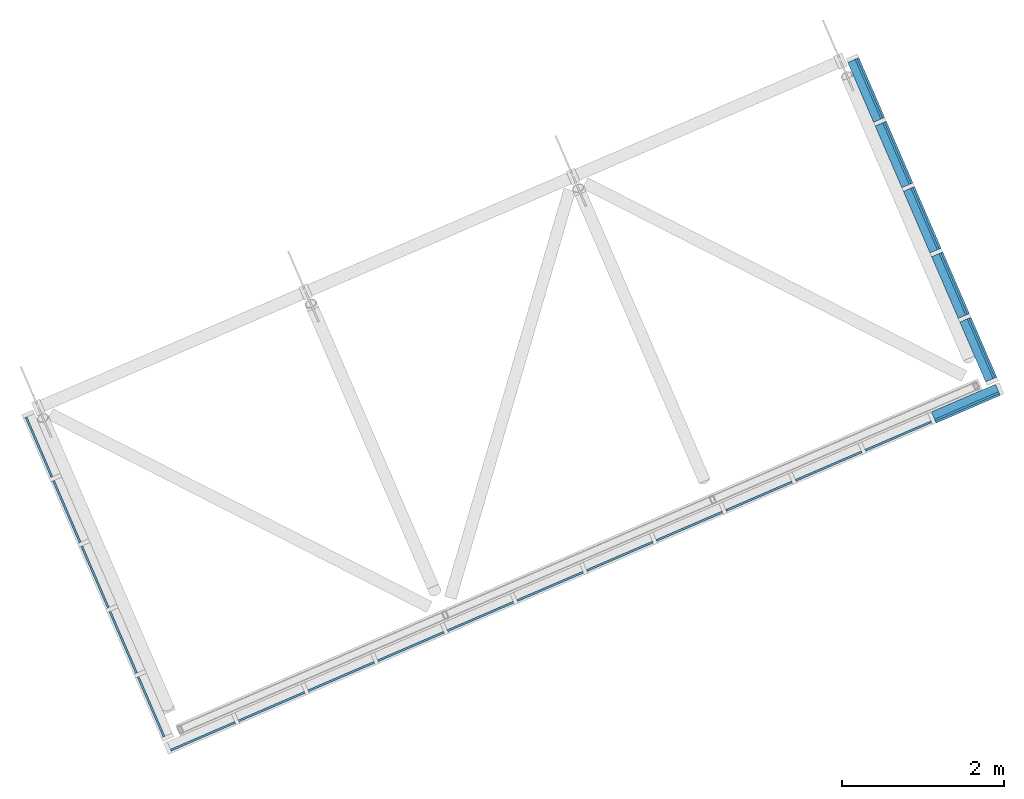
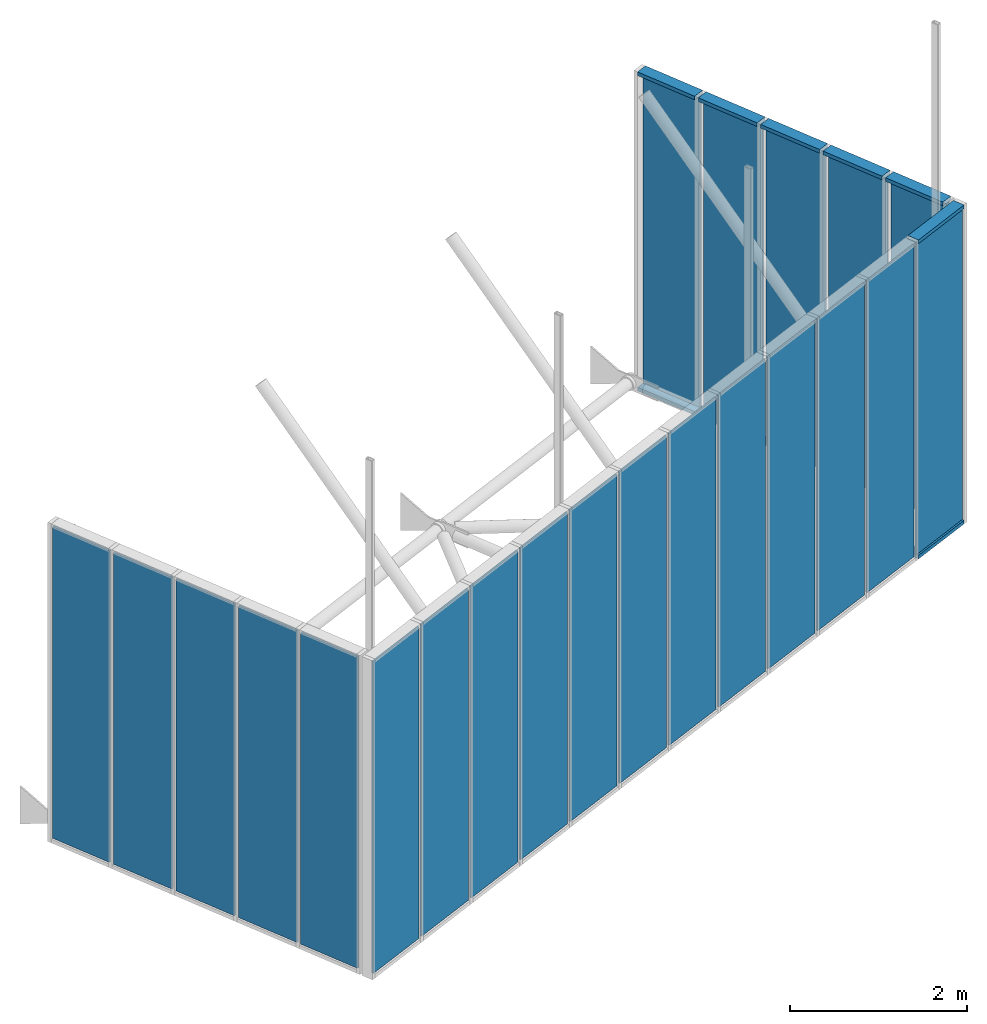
# One storey, part 5 of 5: 22 plates, 12 members, 3 elements without a shape of their own.
"""IFC4 building model written with IfcOpenShell, lengths in metres."""

from ifc_helpers import new_model, entity, si_unit, converted_unit, derived_unit, direction, frame, origin, place, context, subcontext, project, spatial, indexed_curve, outline, extrude, source, transform, mapped, material, type_object, type_shapes, element, aggregate, save


model = new_model("IFC4")

# Units and contexts
model_context = context("Model", 3, precision=1e-05, world=origin(), true_north=direction((6.12323399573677e-17, 1.0)))
body_context = subcontext(model_context, "Body", "Model", "MODEL_VIEW")
ifc_project = project(units=[si_unit("LENGTHUNIT", "METRE"), si_unit("AREAUNIT", "SQUARE_METRE"), si_unit("VOLUMEUNIT", "CUBIC_METRE"), converted_unit("PLANEANGLEUNIT", "DEGREE", entity("IfcPlaneAngleMeasure", 0.0174532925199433), si_unit("PLANEANGLEUNIT", "RADIAN"), dimensions=[0, 0, 0, 0, 0, 0, 0]), si_unit("MASSUNIT", "GRAM", prefix="KILO"), derived_unit("MOMENTOFINERTIAUNIT", [(si_unit("LENGTHUNIT", "METRE"), 4)]), derived_unit("LINEARFORCEUNIT", [(si_unit("MASSUNIT", "GRAM", prefix="KILO"), 1), (si_unit("TIMEUNIT", "SECOND"), -2)]), derived_unit("THERMALTRANSMITTANCEUNIT", [(si_unit("MASSUNIT", "GRAM", prefix="KILO"), 1), (si_unit("THERMODYNAMICTEMPERATUREUNIT", "KELVIN"), -1), (si_unit("TIMEUNIT", "SECOND"), -3)]), derived_unit("USERDEFINED", [(si_unit("MASSUNIT", "GRAM", prefix="KILO"), 1), (si_unit("TIMEUNIT", "SECOND"), -2), (si_unit("THERMODYNAMICTEMPERATUREUNIT", "KELVIN"), -1)]), derived_unit("THERMALRESISTANCEUNIT", [(si_unit("MASSUNIT", "GRAM", prefix="KILO"), -1), (si_unit("TIMEUNIT", "SECOND"), 3), (si_unit("THERMODYNAMICTEMPERATUREUNIT", "KELVIN"), 1)])], contexts=[model_context])

# Site, building, storey
site_placement = place(None, origin())
site = spatial("IfcSite", under=ifc_project, at=site_placement, Name="Default", CompositionType="ELEMENT")
building_placement = place(site_placement, frame((4.92348780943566, -84.5603392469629, 320.975), z_axis=(0.0, 0.0, 1.0), x_axis=(-0.396377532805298, 0.918087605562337, 0.0)))
building = spatial("IfcBuilding", under=site, at=building_placement, CompositionType="ELEMENT")
storey_placement = place(building_placement, origin())
storey = spatial("IfcBuildingStorey", under=building, at=storey_placement, Name="Level 1", CompositionType="ELEMENT", Elevation=0.0)

# Curtain wall, members
curtain_wall_type = type_object("IfcCurtainWallType", Name="Curtain Wall:MC1", PredefinedType="NOTDEFINED")
curtain_wall_1_placement = place(storey_placement, origin())
curtain_wall_1 = element("IfcCurtainWall", 1, at=curtain_wall_1_placement, inside=storey, type_object=curtain_wall_type, Name="Curtain Wall:MC1", ObjectType="Curtain Wall:MC1", PredefinedType="NOTDEFINED")
ifc_material_1 = material(Name="Aluminum", Category="Metal")
member_type_1 = type_object("IfcMemberType", Name="Rectangular Mullion:50mm x 150mm", PredefinedType="MULLION", material=ifc_material_1)
shared_shape_1 = source(origin(), body_context, "Body", "SweptSolid", [
    extrude(outline(indexed_curve([(-0.025, -0.075), (0.025, -0.075), (0.025, 0.075), (-0.025, 0.075), (-0.025, -0.075)], self_intersect=False)), frame((-0.025, 0.0, -0.805000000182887), z_axis=(0.0, 0.0, 1.0), x_axis=(-1.0, 0.0, 0.0)), (0.0, 0.0, 1.0), 0.805000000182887),
])
type_shapes(member_type_1, [shared_shape_1])
member_1_placement = place(curtain_wall_1_placement, frame((2.22316058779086, -5.23882295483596, 4.25), z_axis=(1.0, 0.0, 0.0), x_axis=(0.0, 0.0, 1.0)))
member_1 = element("IfcMember", 2, at=member_1_placement, type_object=member_type_1, material=ifc_material_1, Name="Rectangular Mullion:50mm x 150mm", ObjectType="Rectangular Mullion:50mm x 150mm", PredefinedType="MULLION", context=body_context, shape_type="MappedRepresentation", body=[
    mapped(shared_shape_1, transform((0.0, 0.0, 0.0), scale=1.0)),
])
member_2_placement = place(curtain_wall_1_placement, frame((-1.27183941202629, -5.23882295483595, 4.25), z_axis=(1.0, 0.0, 0.0), x_axis=(0.0, 0.0, 1.0)))
member_2 = element("IfcMember", 3, at=member_2_placement, type_object=member_type_1, material=ifc_material_1, Name="Rectangular Mullion:50mm x 150mm", ObjectType="Rectangular Mullion:50mm x 150mm", PredefinedType="MULLION", context=body_context, shape_type="MappedRepresentation", body=[
    mapped(shared_shape_1, transform((0.0, 0.0, 0.0), scale=1.0)),
])
member_type_2 = type_object("IfcMemberType", Name="Rectangular Mullion:50mm x 150mm", PredefinedType="MULLION", material=ifc_material_1)
shared_shape_2 = source(origin(), body_context, "Body", "SweptSolid", [
    extrude(outline(indexed_curve([(-0.025, -0.075), (0.025, -0.075), (0.025, 0.075), (-0.025, 0.075), (-0.025, -0.075)], self_intersect=False)), frame((-0.025, 0.0, -0.829999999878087), z_axis=(0.0, 0.0, 1.0), x_axis=(-1.0, 0.0, 0.0)), (0.0, 0.0, 1.0), 0.829999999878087),
])
type_shapes(member_type_2, [shared_shape_2])
member_3_placement = place(curtain_wall_1_placement, frame((-0.391839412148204, -5.23882295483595, 4.25), z_axis=(1.0, 0.0, 0.0), x_axis=(0.0, 0.0, 1.0)))
member_3 = element("IfcMember", 4, at=member_3_placement, type_object=member_type_2, material=ifc_material_1, Name="Rectangular Mullion:50mm x 150mm", ObjectType="Rectangular Mullion:50mm x 150mm", PredefinedType="MULLION", context=body_context, shape_type="MappedRepresentation", body=[
    mapped(shared_shape_2, transform((0.0, 0.0, 0.0), scale=1.0)),
])
member_4_placement = place(curtain_wall_1_placement, frame((0.488160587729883, -5.23882295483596, 4.25), z_axis=(1.0, 0.0, 0.0), x_axis=(0.0, 0.0, 1.0)))
member_4 = element("IfcMember", 5, at=member_4_placement, type_object=member_type_2, material=ifc_material_1, Name="Rectangular Mullion:50mm x 150mm", ObjectType="Rectangular Mullion:50mm x 150mm", PredefinedType="MULLION", context=body_context, shape_type="MappedRepresentation", body=[
    mapped(shared_shape_2, transform((0.0, 0.0, 0.0), scale=1.0)),
])
member_5_placement = place(curtain_wall_1_placement, frame((1.36816058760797, -5.23882295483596, 4.25), z_axis=(1.0, 0.0, 0.0), x_axis=(0.0, 0.0, 1.0)))
member_5 = element("IfcMember", 6, at=member_5_placement, type_object=member_type_2, material=ifc_material_1, Name="Rectangular Mullion:50mm x 150mm", ObjectType="Rectangular Mullion:50mm x 150mm", PredefinedType="MULLION", context=body_context, shape_type="MappedRepresentation", body=[
    mapped(shared_shape_2, transform((0.0, 0.0, 0.0), scale=1.0)),
])
member_type_3 = type_object("IfcMemberType", Name="Rectangular Mullion:50mm x 150mm", PredefinedType="MULLION", material=ifc_material_1)
shared_shape_3 = source(origin(), body_context, "Body", "SweptSolid", [
    extrude(outline(indexed_curve([(-0.025, -0.075), (0.025, -0.075), (0.025, 0.075), (-0.025, 0.075), (-0.025, -0.075)], self_intersect=False)), frame((-0.025, 0.0, -0.805000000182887), z_axis=(0.0, 0.0, 1.0), x_axis=(-1.0, 0.0, 0.0)), (0.0, 0.0, 1.0), 0.805000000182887),
])
type_shapes(member_type_3, [shared_shape_3])
member_6_placement = place(curtain_wall_1_placement, frame((-2.07683941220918, -5.23882295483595, -0.15), z_axis=(-1.0, 0.0, 0.0), x_axis=(0.0, 0.0, -1.0)))
member_6 = element("IfcMember", 7, at=member_6_placement, type_object=member_type_3, material=ifc_material_1, Name="Rectangular Mullion:50mm x 150mm", ObjectType="Rectangular Mullion:50mm x 150mm", PredefinedType="MULLION", context=body_context, shape_type="MappedRepresentation", body=[
    mapped(shared_shape_3, transform((0.0, 0.0, 0.0), scale=1.0)),
])
member_7_placement = place(curtain_wall_1_placement, frame((1.41816058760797, -5.23882295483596, -0.15), z_axis=(-1.0, 0.0, 0.0), x_axis=(0.0, 0.0, -1.0)))
member_7 = element("IfcMember", 8, at=member_7_placement, type_object=member_type_3, material=ifc_material_1, Name="Rectangular Mullion:50mm x 150mm", ObjectType="Rectangular Mullion:50mm x 150mm", PredefinedType="MULLION", context=body_context, shape_type="MappedRepresentation", body=[
    mapped(shared_shape_3, transform((0.0, 0.0, 0.0), scale=1.0)),
])
member_type_4 = type_object("IfcMemberType", Name="Rectangular Mullion:50mm x 150mm", PredefinedType="MULLION", material=ifc_material_1)
shared_shape_4 = source(origin(), body_context, "Body", "SweptSolid", [
    extrude(outline(indexed_curve([(-0.025, -0.075), (0.025, -0.075), (0.025, 0.075), (-0.025, 0.075), (-0.025, -0.075)], self_intersect=False)), frame((-0.025, 0.0, -0.829999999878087), z_axis=(0.0, 0.0, 1.0), x_axis=(-1.0, 0.0, 0.0)), (0.0, 0.0, 1.0), 0.829999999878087),
])
type_shapes(member_type_4, [shared_shape_4])
member_8_placement = place(curtain_wall_1_placement, frame((-1.22183941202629, -5.23882295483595, -0.15), z_axis=(-1.0, 0.0, 0.0), x_axis=(0.0, 0.0, -1.0)))
member_8 = element("IfcMember", 9, at=member_8_placement, type_object=member_type_4, material=ifc_material_1, Name="Rectangular Mullion:50mm x 150mm", ObjectType="Rectangular Mullion:50mm x 150mm", PredefinedType="MULLION", context=body_context, shape_type="MappedRepresentation", body=[
    mapped(shared_shape_4, transform((0.0, 0.0, 0.0), scale=1.0)),
])
member_9_placement = place(curtain_wall_1_placement, frame((-0.341839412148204, -5.23882295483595, -0.15), z_axis=(-1.0, 0.0, 0.0), x_axis=(0.0, 0.0, -1.0)))
member_9 = element("IfcMember", 10, at=member_9_placement, type_object=member_type_4, material=ifc_material_1, Name="Rectangular Mullion:50mm x 150mm", ObjectType="Rectangular Mullion:50mm x 150mm", PredefinedType="MULLION", context=body_context, shape_type="MappedRepresentation", body=[
    mapped(shared_shape_4, transform((0.0, 0.0, 0.0), scale=1.0)),
])
member_10_placement = place(curtain_wall_1_placement, frame((0.538160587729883, -5.23882295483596, -0.15), z_axis=(-1.0, 0.0, 0.0), x_axis=(0.0, 0.0, -1.0)))
member_10 = element("IfcMember", 11, at=member_10_placement, type_object=member_type_4, material=ifc_material_1, Name="Rectangular Mullion:50mm x 150mm", ObjectType="Rectangular Mullion:50mm x 150mm", PredefinedType="MULLION", context=body_context, shape_type="MappedRepresentation", body=[
    mapped(shared_shape_4, transform((0.0, 0.0, 0.0), scale=1.0)),
])

curtain_wall_2_placement = place(storey_placement, origin())
curtain_wall_2 = element("IfcCurtainWall", 12, at=curtain_wall_2_placement, inside=storey, type_object=curtain_wall_type, Name="Curtain Wall:MC1", ObjectType="Curtain Wall:MC1", PredefinedType="NOTDEFINED")
member_type_5 = type_object("IfcMemberType", Name="Rectangular Mullion:50mm x 150mm", PredefinedType="MULLION", material=ifc_material_1)
shared_shape_5 = source(origin(), body_context, "Body", "SweptSolid", [
    extrude(outline(indexed_curve([(-0.025, -0.075), (0.025, -0.075), (0.025, 0.075), (-0.025, 0.075), (-0.025, -0.075)], self_intersect=False)), frame((-0.025, 0.0, -0.862500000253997), z_axis=(0.0, 0.0, 1.0), x_axis=(-1.0, 0.0, 0.0)), (0.0, 0.0, 1.0), 0.862500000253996),
])
type_shapes(member_type_5, [shared_shape_5])
member_11_placement = place(curtain_wall_2_placement, frame((-2.22683941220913, -5.26382295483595, 4.25), z_axis=(0.0, -1.0, 0.0), x_axis=(0.0, 0.0, 1.0)))
member_11 = element("IfcMember", 13, at=member_11_placement, type_object=member_type_5, material=ifc_material_1, Name="Rectangular Mullion:50mm x 150mm", ObjectType="Rectangular Mullion:50mm x 150mm", PredefinedType="MULLION", context=body_context, shape_type="MappedRepresentation", body=[
    mapped(shared_shape_5, transform((0.0, 0.0, 0.0), scale=1.0)),
])
member_type_6 = type_object("IfcMemberType", Name="Rectangular Mullion:50mm x 150mm", PredefinedType="MULLION", material=ifc_material_1)
shared_shape_6 = source(origin(), body_context, "Body", "SweptSolid", [
    extrude(outline(indexed_curve([(-0.025, -0.075), (0.025, -0.075), (0.025, 0.075), (-0.025, 0.075), (-0.025, -0.075)], self_intersect=False)), frame((-0.025, 0.0, -0.862500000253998), z_axis=(0.0, 0.0, 1.0), x_axis=(-1.0, 0.0, 0.0)), (0.0, 0.0, 1.0), 0.862500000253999),
])
type_shapes(member_type_6, [shared_shape_6])
member_12_placement = place(curtain_wall_2_placement, frame((-2.22683941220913, -4.40132295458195, -0.15), z_axis=(0.0, 1.0, 0.0), x_axis=(0.0, 0.0, -1.0)))
member_12 = element("IfcMember", 14, at=member_12_placement, type_object=member_type_6, material=ifc_material_1, Name="Rectangular Mullion:50mm x 150mm", ObjectType="Rectangular Mullion:50mm x 150mm", PredefinedType="MULLION", context=body_context, shape_type="MappedRepresentation", body=[
    mapped(shared_shape_6, transform((0.0, 0.0, 0.0), scale=1.0)),
])

# Curtain wall, plates
curtain_wall_3_placement = place(storey_placement, origin())
curtain_wall_3 = element("IfcCurtainWall", 15, at=curtain_wall_3_placement, inside=storey, type_object=curtain_wall_type, Name="Curtain Wall:MC1", ObjectType="Curtain Wall:MC1", PredefinedType="NOTDEFINED")
ifc_material_2 = material(Name="Glass", Category="Glass")
plate_type_1 = type_object("IfcPlateType", Name="System Panel:Glazed", PredefinedType="CURTAIN_PANEL", material=ifc_material_2)
shared_shape_7 = source(origin(), body_context, "Body", "SweptSolid", [
    extrude(outline(indexed_curve([(-0.0125, -0.402500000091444), (0.0125, -0.402500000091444), (0.0125, 0.402500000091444), (-0.0125, 0.402500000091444), (-0.0125, -0.402500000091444)], self_intersect=False)), frame((0.0, 0.037, 0.0), z_axis=(0.0, 0.0, 1.0), x_axis=(0.0, 1.0, 0.0)), (0.0, 0.0, 1.0), 4.3),
])
type_shapes(plate_type_1, [shared_shape_7])
plate_1_placement = place(curtain_wall_3_placement, frame((-1.6743394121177, 5.86117704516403, -0.1)))
plate_1 = element("IfcPlate", 16, at=plate_1_placement, type_object=plate_type_1, material=ifc_material_2, Name="System Panel:Glazed", ObjectType="System Panel:Glazed", PredefinedType="CURTAIN_PANEL", context=body_context, shape_type="MappedRepresentation", body=[
    mapped(shared_shape_7, transform((0.0, 0.0, 0.0), scale=1.0)),
])
plate_2_placement = place(curtain_wall_3_placement, frame((1.82066058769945, 5.86117704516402, -0.1)))
plate_2 = element("IfcPlate", 17, at=plate_2_placement, type_object=plate_type_1, material=ifc_material_2, Name="System Panel:Glazed", ObjectType="System Panel:Glazed", PredefinedType="CURTAIN_PANEL", context=body_context, shape_type="MappedRepresentation", body=[
    mapped(shared_shape_7, transform((0.0, 0.0, 0.0), scale=1.0)),
])
plate_type_2 = type_object("IfcPlateType", Name="System Panel:Glazed", PredefinedType="CURTAIN_PANEL", material=ifc_material_2)
shared_shape_8 = source(origin(), body_context, "Body", "SweptSolid", [
    extrude(outline(indexed_curve([(-0.0125, -0.414999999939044), (0.0125, -0.414999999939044), (0.0125, 0.414999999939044), (-0.0125, 0.414999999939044), (-0.0125, -0.414999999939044)], self_intersect=False)), frame((0.0, 0.037, 0.0), z_axis=(0.0, 0.0, 1.0), x_axis=(0.0, 1.0, 0.0)), (0.0, 0.0, 1.0), 4.3),
])
type_shapes(plate_type_2, [shared_shape_8])
plate_3_placement = place(curtain_wall_3_placement, frame((-0.806839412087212, 5.86117704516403, -0.1)))
plate_3 = element("IfcPlate", 18, at=plate_3_placement, type_object=plate_type_2, material=ifc_material_2, Name="System Panel:Glazed", ObjectType="System Panel:Glazed", PredefinedType="CURTAIN_PANEL", context=body_context, shape_type="MappedRepresentation", body=[
    mapped(shared_shape_8, transform((0.0, 0.0, 0.0), scale=1.0)),
])
plate_4_placement = place(curtain_wall_3_placement, frame((0.0731605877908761, 5.86117704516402, -0.1)))
plate_4 = element("IfcPlate", 19, at=plate_4_placement, type_object=plate_type_2, material=ifc_material_2, Name="System Panel:Glazed", ObjectType="System Panel:Glazed", PredefinedType="CURTAIN_PANEL", context=body_context, shape_type="MappedRepresentation", body=[
    mapped(shared_shape_8, transform((0.0, 0.0, 0.0), scale=1.0)),
])
plate_5_placement = place(curtain_wall_3_placement, frame((0.953160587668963, 5.86117704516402, -0.1)))
plate_5 = element("IfcPlate", 20, at=plate_5_placement, type_object=plate_type_2, material=ifc_material_2, Name="System Panel:Glazed", ObjectType="System Panel:Glazed", PredefinedType="CURTAIN_PANEL", context=body_context, shape_type="MappedRepresentation", body=[
    mapped(shared_shape_8, transform((0.0, 0.0, 0.0), scale=1.0)),
])
aggregate(curtain_wall_3, [plate_1, plate_3, plate_4, plate_5, plate_2])

# Plate
plate_type_3 = type_object("IfcPlateType", Name="System Panel:Glazed", PredefinedType="CURTAIN_PANEL", material=ifc_material_2)
shared_shape_9 = source(origin(), body_context, "Body", "SweptSolid", [
    extrude(outline(indexed_curve([(-0.0125, -0.402500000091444), (0.0125, -0.402500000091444), (0.0125, 0.402500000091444), (-0.0125, 0.402500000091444), (-0.0125, -0.402500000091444)], self_intersect=False)), frame((0.0, -0.037, 0.0), z_axis=(0.0, 0.0, 1.0), x_axis=(0.0, 1.0, 0.0)), (0.0, 0.0, 1.0), 4.3),
])
type_shapes(plate_type_3, [shared_shape_9])
plate_6_placement = place(curtain_wall_1_placement, frame((-1.67433941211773, -5.23882295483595, -0.1)))
plate_6 = element("IfcPlate", 21, at=plate_6_placement, type_object=plate_type_3, material=ifc_material_2, Name="System Panel:Glazed", ObjectType="System Panel:Glazed", PredefinedType="CURTAIN_PANEL", context=body_context, shape_type="MappedRepresentation", body=[
    mapped(shared_shape_9, transform((0.0, 0.0, 0.0), scale=1.0)),
])

plate_7_placement = place(curtain_wall_1_placement, frame((1.82066058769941, -5.23882295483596, -0.1)))
plate_7 = element("IfcPlate", 22, at=plate_7_placement, type_object=plate_type_3, material=ifc_material_2, Name="System Panel:Glazed", ObjectType="System Panel:Glazed", PredefinedType="CURTAIN_PANEL", context=body_context, shape_type="MappedRepresentation", body=[
    mapped(shared_shape_9, transform((0.0, 0.0, 0.0), scale=1.0)),
])

plate_type_4 = type_object("IfcPlateType", Name="System Panel:Glazed", PredefinedType="CURTAIN_PANEL", material=ifc_material_2)
shared_shape_10 = source(origin(), body_context, "Body", "SweptSolid", [
    extrude(outline(indexed_curve([(-0.0125, -0.414999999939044), (0.0125, -0.414999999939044), (0.0125, 0.414999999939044), (-0.0125, 0.414999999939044), (-0.0125, -0.414999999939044)], self_intersect=False)), frame((0.0, -0.037, 0.0), z_axis=(0.0, 0.0, 1.0), x_axis=(0.0, 1.0, 0.0)), (0.0, 0.0, 1.0), 4.3),
])
type_shapes(plate_type_4, [shared_shape_10])
plate_8_placement = place(curtain_wall_1_placement, frame((-0.806839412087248, -5.23882295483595, -0.1)))
plate_8 = element("IfcPlate", 23, at=plate_8_placement, type_object=plate_type_4, material=ifc_material_2, Name="System Panel:Glazed", ObjectType="System Panel:Glazed", PredefinedType="CURTAIN_PANEL", context=body_context, shape_type="MappedRepresentation", body=[
    mapped(shared_shape_10, transform((0.0, 0.0, 0.0), scale=1.0)),
])

plate_9_placement = place(curtain_wall_1_placement, frame((0.0731605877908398, -5.23882295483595, -0.1)))
plate_9 = element("IfcPlate", 24, at=plate_9_placement, type_object=plate_type_4, material=ifc_material_2, Name="System Panel:Glazed", ObjectType="System Panel:Glazed", PredefinedType="CURTAIN_PANEL", context=body_context, shape_type="MappedRepresentation", body=[
    mapped(shared_shape_10, transform((0.0, 0.0, 0.0), scale=1.0)),
])

plate_10_placement = place(curtain_wall_1_placement, frame((0.953160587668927, -5.23882295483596, -0.1)))
plate_10 = element("IfcPlate", 25, at=plate_10_placement, type_object=plate_type_4, material=ifc_material_2, Name="System Panel:Glazed", ObjectType="System Panel:Glazed", PredefinedType="CURTAIN_PANEL", context=body_context, shape_type="MappedRepresentation", body=[
    mapped(shared_shape_10, transform((0.0, 0.0, 0.0), scale=1.0)),
])

aggregate(curtain_wall_1, [plate_6, plate_8, plate_9, plate_10, plate_7, member_1, member_2, member_3, member_6, member_8, member_9, member_4, member_5, member_10, member_7])

plate_type_5 = type_object("IfcPlateType", Name="System Panel:Glazed", PredefinedType="CURTAIN_PANEL", material=ifc_material_2)
shared_shape_11 = source(origin(), body_context, "Body", "SweptSolid", [
    extrude(outline(indexed_curve([(-0.0125, -0.431250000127), (0.0125, -0.431250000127), (0.0125, 0.431250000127), (-0.0125, 0.431250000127), (-0.0125, -0.431250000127)], self_intersect=False)), frame((0.0, -0.0370000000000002, 0.0), z_axis=(0.0, 0.0, 1.0), x_axis=(0.0, 1.0, 0.0)), (0.0, 0.0, 1.0), 4.3),
])
type_shapes(plate_type_5, [shared_shape_11])
plate_11_placement = place(curtain_wall_2_placement, frame((-2.22683941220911, 5.45492704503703, -0.1), z_axis=(0.0, 0.0, 1.0), x_axis=(0.0, -1.0, 0.0)))
plate_11 = element("IfcPlate", 26, at=plate_11_placement, type_object=plate_type_5, material=ifc_material_2, Name="System Panel:Glazed", ObjectType="System Panel:Glazed", PredefinedType="CURTAIN_PANEL", context=body_context, shape_type="MappedRepresentation", body=[
    mapped(shared_shape_11, transform((0.0, 0.0, 0.0), scale=1.0)),
])

plate_12_placement = place(curtain_wall_2_placement, frame((-2.22683941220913, -4.83257295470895, -0.1), z_axis=(0.0, 0.0, 1.0), x_axis=(0.0, -1.0, 0.0)))
plate_12 = element("IfcPlate", 27, at=plate_12_placement, type_object=plate_type_5, material=ifc_material_2, Name="System Panel:Glazed", ObjectType="System Panel:Glazed", PredefinedType="CURTAIN_PANEL", context=body_context, shape_type="MappedRepresentation", body=[
    mapped(shared_shape_11, transform((0.0, 0.0, 0.0), scale=1.0)),
])

plate_type_6 = type_object("IfcPlateType", Name="System Panel:Glazed", PredefinedType="CURTAIN_PANEL", material=ifc_material_2)
shared_shape_12 = source(origin(), body_context, "Body", "SweptSolid", [
    extrude(outline(indexed_curve([(-0.0125, -0.4437499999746), (0.0125, -0.4437499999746), (0.0125, 0.4437499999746), (-0.0125, 0.4437499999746), (-0.0125, -0.4437499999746)], self_intersect=False)), frame((0.0, -0.0370000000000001, 0.0), z_axis=(0.0, 0.0, 1.0), x_axis=(0.0, 1.0, 0.0)), (0.0, 0.0, 1.0), 4.3),
])
type_shapes(plate_type_6, [shared_shape_12])
plate_13_placement = place(curtain_wall_2_placement, frame((-2.22683941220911, 4.52992704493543, -0.1), z_axis=(0.0, 0.0, 1.0), x_axis=(0.0, -1.0, 0.0)))
plate_13 = element("IfcPlate", 28, at=plate_13_placement, type_object=plate_type_6, material=ifc_material_2, Name="System Panel:Glazed", ObjectType="System Panel:Glazed", PredefinedType="CURTAIN_PANEL", context=body_context, shape_type="MappedRepresentation", body=[
    mapped(shared_shape_12, transform((0.0, 0.0, 0.0), scale=1.0)),
])

plate_14_placement = place(curtain_wall_2_placement, frame((-2.22683941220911, 3.59242704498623, -0.1), z_axis=(0.0, 0.0, 1.0), x_axis=(0.0, -1.0, 0.0)))
plate_14 = element("IfcPlate", 29, at=plate_14_placement, type_object=plate_type_6, material=ifc_material_2, Name="System Panel:Glazed", ObjectType="System Panel:Glazed", PredefinedType="CURTAIN_PANEL", context=body_context, shape_type="MappedRepresentation", body=[
    mapped(shared_shape_12, transform((0.0, 0.0, 0.0), scale=1.0)),
])

plate_15_placement = place(curtain_wall_2_placement, frame((-2.22683941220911, 2.65492704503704, -0.1), z_axis=(0.0, 0.0, 1.0), x_axis=(0.0, -1.0, 0.0)))
plate_15 = element("IfcPlate", 30, at=plate_15_placement, type_object=plate_type_6, material=ifc_material_2, Name="System Panel:Glazed", ObjectType="System Panel:Glazed", PredefinedType="CURTAIN_PANEL", context=body_context, shape_type="MappedRepresentation", body=[
    mapped(shared_shape_12, transform((0.0, 0.0, 0.0), scale=1.0)),
])

plate_16_placement = place(curtain_wall_2_placement, frame((-2.22683941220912, 1.71742704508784, -0.1), z_axis=(0.0, 0.0, 1.0), x_axis=(0.0, -1.0, 0.0)))
plate_16 = element("IfcPlate", 31, at=plate_16_placement, type_object=plate_type_6, material=ifc_material_2, Name="System Panel:Glazed", ObjectType="System Panel:Glazed", PredefinedType="CURTAIN_PANEL", context=body_context, shape_type="MappedRepresentation", body=[
    mapped(shared_shape_12, transform((0.0, 0.0, 0.0), scale=1.0)),
])

plate_17_placement = place(curtain_wall_2_placement, frame((-2.22683941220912, 0.779927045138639, -0.1), z_axis=(0.0, 0.0, 1.0), x_axis=(0.0, -1.0, 0.0)))
plate_17 = element("IfcPlate", 32, at=plate_17_placement, type_object=plate_type_6, material=ifc_material_2, Name="System Panel:Glazed", ObjectType="System Panel:Glazed", PredefinedType="CURTAIN_PANEL", context=body_context, shape_type="MappedRepresentation", body=[
    mapped(shared_shape_12, transform((0.0, 0.0, 0.0), scale=1.0)),
])

plate_18_placement = place(curtain_wall_2_placement, frame((-2.22683941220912, -0.157572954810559, -0.1), z_axis=(0.0, 0.0, 1.0), x_axis=(0.0, -1.0, 0.0)))
plate_18 = element("IfcPlate", 33, at=plate_18_placement, type_object=plate_type_6, material=ifc_material_2, Name="System Panel:Glazed", ObjectType="System Panel:Glazed", PredefinedType="CURTAIN_PANEL", context=body_context, shape_type="MappedRepresentation", body=[
    mapped(shared_shape_12, transform((0.0, 0.0, 0.0), scale=1.0)),
])

plate_19_placement = place(curtain_wall_2_placement, frame((-2.22683941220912, -1.09507295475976, -0.1), z_axis=(0.0, 0.0, 1.0), x_axis=(0.0, -1.0, 0.0)))
plate_19 = element("IfcPlate", 34, at=plate_19_placement, type_object=plate_type_6, material=ifc_material_2, Name="System Panel:Glazed", ObjectType="System Panel:Glazed", PredefinedType="CURTAIN_PANEL", context=body_context, shape_type="MappedRepresentation", body=[
    mapped(shared_shape_12, transform((0.0, 0.0, 0.0), scale=1.0)),
])

plate_20_placement = place(curtain_wall_2_placement, frame((-2.22683941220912, -2.03257295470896, -0.1), z_axis=(0.0, 0.0, 1.0), x_axis=(0.0, -1.0, 0.0)))
plate_20 = element("IfcPlate", 35, at=plate_20_placement, type_object=plate_type_6, material=ifc_material_2, Name="System Panel:Glazed", ObjectType="System Panel:Glazed", PredefinedType="CURTAIN_PANEL", context=body_context, shape_type="MappedRepresentation", body=[
    mapped(shared_shape_12, transform((0.0, 0.0, 0.0), scale=1.0)),
])

plate_21_placement = place(curtain_wall_2_placement, frame((-2.22683941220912, -2.97007295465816, -0.1), z_axis=(0.0, 0.0, 1.0), x_axis=(0.0, -1.0, 0.0)))
plate_21 = element("IfcPlate", 36, at=plate_21_placement, type_object=plate_type_6, material=ifc_material_2, Name="System Panel:Glazed", ObjectType="System Panel:Glazed", PredefinedType="CURTAIN_PANEL", context=body_context, shape_type="MappedRepresentation", body=[
    mapped(shared_shape_12, transform((0.0, 0.0, 0.0), scale=1.0)),
])

plate_22_placement = place(curtain_wall_2_placement, frame((-2.22683941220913, -3.90757295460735, -0.1), z_axis=(0.0, 0.0, 1.0), x_axis=(0.0, -1.0, 0.0)))
plate_22 = element("IfcPlate", 37, at=plate_22_placement, type_object=plate_type_6, material=ifc_material_2, Name="System Panel:Glazed", ObjectType="System Panel:Glazed", PredefinedType="CURTAIN_PANEL", context=body_context, shape_type="MappedRepresentation", body=[
    mapped(shared_shape_12, transform((0.0, 0.0, 0.0), scale=1.0)),
])

aggregate(curtain_wall_2, [plate_11, plate_13, plate_14, plate_15, plate_16, plate_17, plate_18, plate_19, plate_20, plate_21, plate_22, plate_12, member_11, member_12])

save(model, "model.ifc")
